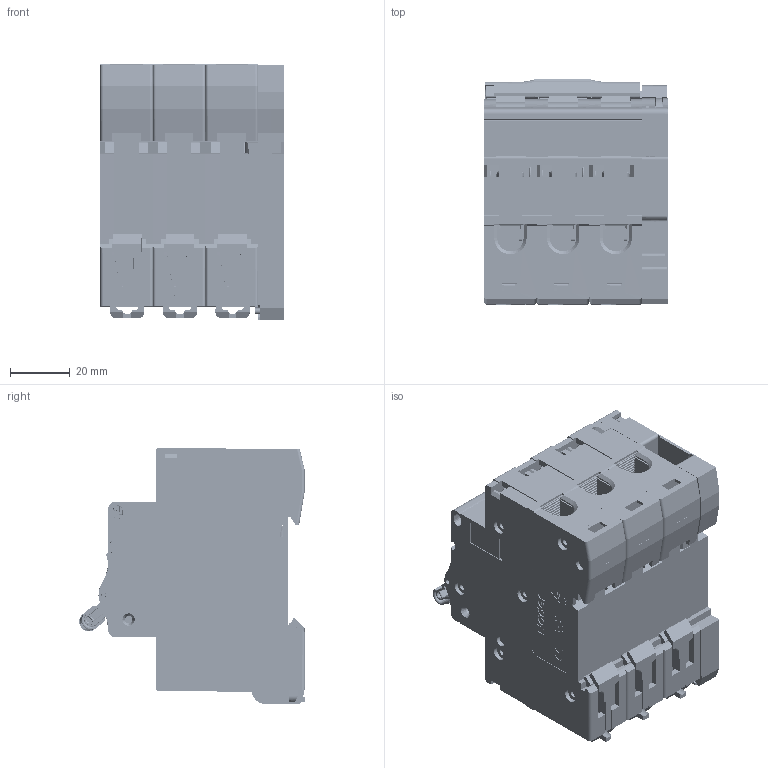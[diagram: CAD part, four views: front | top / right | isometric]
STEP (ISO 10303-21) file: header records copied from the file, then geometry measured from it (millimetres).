
FILE_DESCRIPTION (( 'STEP AP203' ), '1' );
FILE_NAME ('NDB2-63C63-3P+OF2.STEP', '2022-04-26T09:21:52', ( '' ), ( '' ), 'SwSTEP 2.0', 'SolidWorks 2018', '' );
FILE_SCHEMA (( 'CONFIG_CONTROL_DESIGN' ));
Length unit declared in the file: millimetre
Products named in the file (4): 3P忒梟杶; NDB2-63 1P; NDB2-63C63-3P+OF2; OF2
Assembly tree (5 placements, depth 2):
  NDB2-63C63-3P+OF2
    NDB2-63 1P  x3
    OF2
    3P忒梟杶
Bounding box: 61.4 x 75.48 x 85.78 mm (x, y, z)
Volume: 103288 mm3; surface area: 186890.4 mm2
Topology: 40 solids, 88 shells, 14295 faces, 40283 edges, 26400 vertices
Faces by surface type: plane 6957, cylinder 3237, bspline 3054, cone 954, torus 63, sphere 30
Entity records: 273336 total; most frequent: CARTESIAN_POINT 132069, ORIENTED_EDGE 36134, DIRECTION 18610, EDGE_CURVE 18220, VERTEX_POINT 11918, B_SPLINE_CURVE_WITH_KNOTS 8163, VECTOR 7246, LINE 7246
